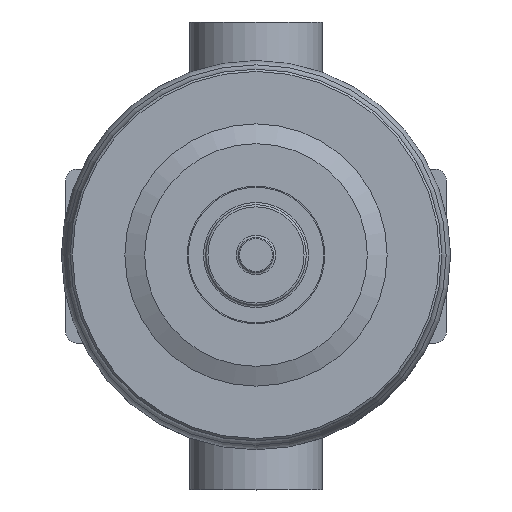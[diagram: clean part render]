
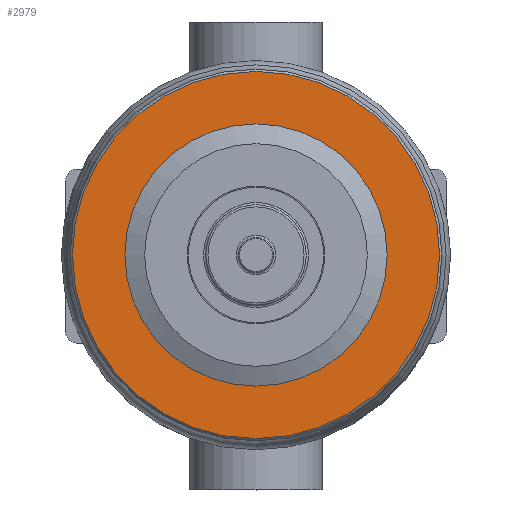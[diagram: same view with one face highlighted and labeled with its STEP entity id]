
A CAD part, top view. The second image highlights one B-rep face of the part: STEP entity #2979.
In plain terms, the highlighted planar face has unit normal (0, 0, 1) as drawn and (0, 1, 0) by its records, which use the part's own axes.
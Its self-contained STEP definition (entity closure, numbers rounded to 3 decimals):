
#2323=FACE_BOUND('',#4532,.T.);
#2324=FACE_BOUND('',#4533,.T.);
#2979=ADVANCED_FACE('',(#2323,#2324),#3210,.T.);
#3210=PLANE('',#11861);
#4532=EDGE_LOOP('',(#7524));
#4533=EDGE_LOOP('',(#7525));
#7524=ORIENTED_EDGE('',*,*,#10004,.F.);
#7525=ORIENTED_EDGE('',*,*,#10003,.F.);
#8507=VERTEX_POINT('',#23662);
#8508=VERTEX_POINT('',#23665);
#10003=EDGE_CURVE('',#8507,#8507,#10649,.T.);
#10004=EDGE_CURVE('',#8508,#8508,#10650,.T.);
#10649=CIRCLE('',#11858,84.);
#10650=CIRCLE('',#11860,60.);
#11858=AXIS2_PLACEMENT_3D('',#23661,#14850,#14851);
#11860=AXIS2_PLACEMENT_3D('',#23664,#14854,#14855);
#11861=AXIS2_PLACEMENT_3D('',#23666,#14856,#14857);
#14850=DIRECTION('',(0.,-1.,0.));
#14851=DIRECTION('',(-1.,0.,0.));
#14854=DIRECTION('',(0.,1.,0.));
#14855=DIRECTION('',(1.,0.,0.));
#14856=DIRECTION('',(0.,1.,0.));
#14857=DIRECTION('',(0.,0.,-1.));
#23661=CARTESIAN_POINT('',(0.,63.,0.));
#23662=CARTESIAN_POINT('',(84.,63.,0.));
#23664=CARTESIAN_POINT('',(0.,63.,0.));
#23665=CARTESIAN_POINT('',(60.,63.,0.));
#23666=CARTESIAN_POINT('',(60.,63.,0.));
